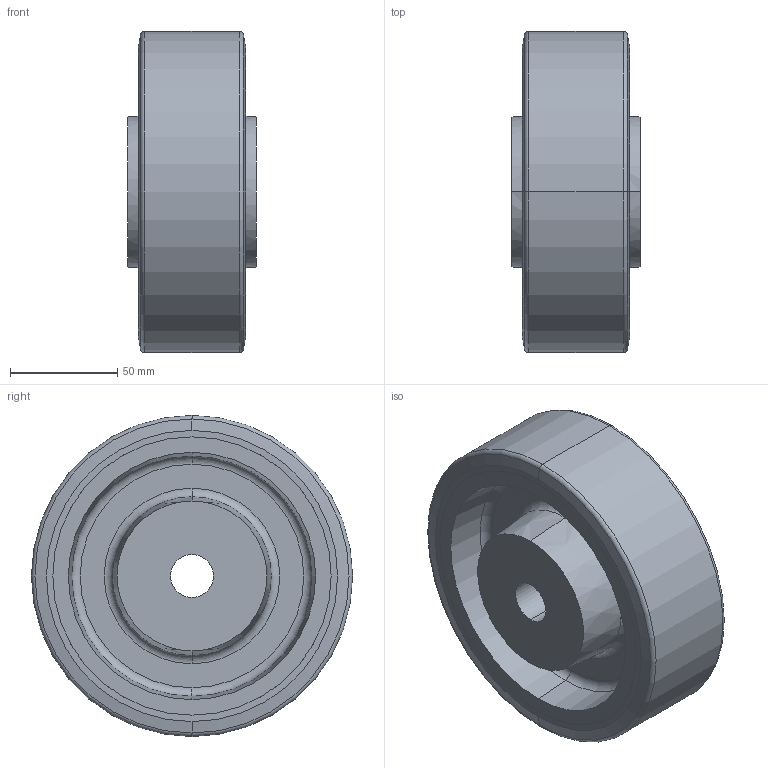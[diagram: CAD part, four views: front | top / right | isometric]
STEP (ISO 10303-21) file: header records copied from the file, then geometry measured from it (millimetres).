
FILE_DESCRIPTION (( 'STEP AP214' ), '1' );
FILE_NAME ('22887-150-B-A.step', '2024-10-28T09:26:52', ( '' ), ( '' ), 'SwSTEP 2.0', 'SolidWorks 2022', '' );
FILE_SCHEMA (( 'AUTOMOTIVE_DESIGN' ));
Length unit declared in the file: millimetre
Products named in the file (1): 22887-150-B-A
Bounding box: 60 x 150 x 150 mm (x, y, z)
Volume: 645284.2 mm3; surface area: 83924.7 mm2
Topology: 1 solids, 1 shells, 46 faces, 92 edges, 56 vertices
Faces by surface type: cylinder 12, cone 12, torus 12, plane 10
Entity records: 1430 total; most frequent: DIRECTION 254, CARTESIAN_POINT 195, ORIENTED_EDGE 184, AXIS2_PLACEMENT_3D 115, EDGE_CURVE 92, CIRCLE 68, VERTEX_POINT 56, EDGE_LOOP 56
